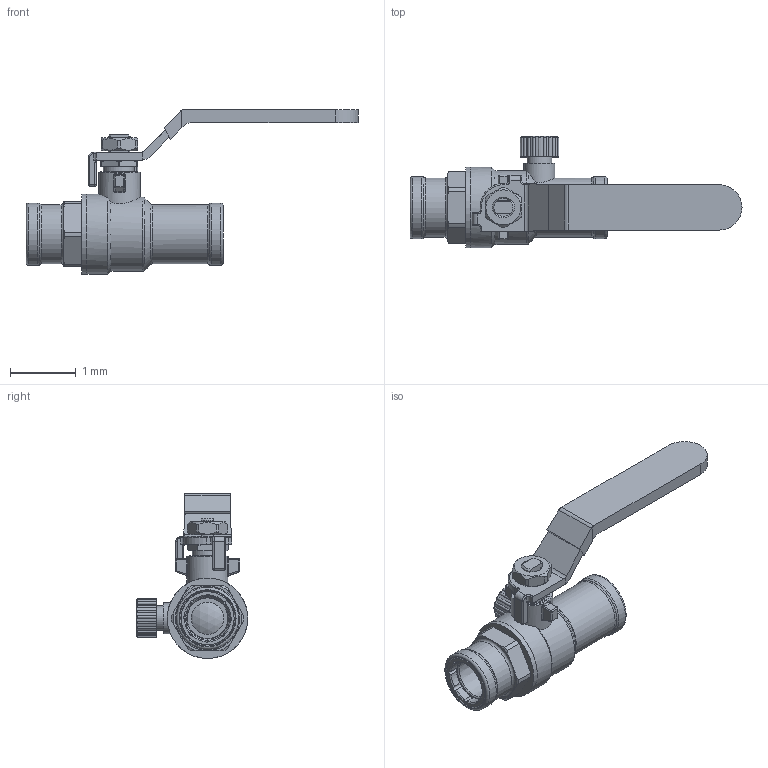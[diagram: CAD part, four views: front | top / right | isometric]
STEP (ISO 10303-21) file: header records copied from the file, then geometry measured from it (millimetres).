
FILE_DESCRIPTION(('Open CASCADE Model'),'2;1');
FILE_NAME('Open CASCADE Shape Model','2022-08-11T10:07:12',('Author'),( 'Open CASCADE'),'Open CASCADE STEP processor 7.3','Open CASCADE 7.3' ,'Unknown');
FILE_SCHEMA(('AUTOMOTIVE_DESIGN { 1 0 10303 214 1 1 1 1 }'));
Length unit declared in the file: millimetre
Products named in the file (22): Open CASCADE STEP translator 7.3 1; Open CASCADE STEP translator 7.3 1.1; Open CASCADE STEP translator 7.3 1.2; Open CASCADE STEP translator 7.3 1.3; Open CASCADE STEP translator 7.3 1.4; Open CASCADE STEP translator 7.3 1.5; Open CASCADE STEP translator 7.3 1.5.1; Open CASCADE STEP translator 7.3 1.5.2; Open CASCADE STEP translator 7.3 1.5.3; Open CASCADE STEP translator 7.3 1.6; Open CASCADE STEP translator 7.3 1.7; Open CASCADE STEP translator 7.3 1.8; Open CASCADE STEP translator 7.3 1.9; Open CASCADE STEP translator 7.3 1.10; Open CASCADE STEP translator 7.3 1.11; Open CASCADE STEP translator 7.3 1.12; Open CASCADE STEP translator 7.3 1.13; Open CASCADE STEP translator 7.3 1.14; Open CASCADE STEP translator 7.3 1.15; Open CASCADE STEP translator 7.3 1.16; Open CASCADE STEP translator 7.3 1.17; Open CASCADE STEP translator 7.3 1.18
Assembly tree (21 placements, depth 3):
  Open CASCADE STEP translator 7.3 1
    Open CASCADE STEP translator 7.3 1.1
    Open CASCADE STEP translator 7.3 1.2
    Open CASCADE STEP translator 7.3 1.3
    Open CASCADE STEP translator 7.3 1.4
    Open CASCADE STEP translator 7.3 1.5
      Open CASCADE STEP translator 7.3 1.5.1
      Open CASCADE STEP translator 7.3 1.5.2
      Open CASCADE STEP translator 7.3 1.5.3
    Open CASCADE STEP translator 7.3 1.6
    Open CASCADE STEP translator 7.3 1.7
    Open CASCADE STEP translator 7.3 1.8
    Open CASCADE STEP translator 7.3 1.9
    Open CASCADE STEP translator 7.3 1.10
    Open CASCADE STEP translator 7.3 1.11
    Open CASCADE STEP translator 7.3 1.12
    Open CASCADE STEP translator 7.3 1.13
    Open CASCADE STEP translator 7.3 1.14
    Open CASCADE STEP translator 7.3 1.15
    Open CASCADE STEP translator 7.3 1.16
    Open CASCADE STEP translator 7.3 1.17
    Open CASCADE STEP translator 7.3 1.18
Bounding box: 5.04 x 1.69 x 2.51 mm (x, y, z)
Volume: 2.4 mm3; surface area: 52.9 mm2
Topology: 20 solids, 20 shells, 519 faces, 1345 edges, 893 vertices
Faces by surface type: cylinder 210, plane 144, cone 91, torus 43, sphere 21, bspline 10
Full cylindrical faces by diameter (mm): 0.079 x1, 0.126 x1, 0.256 x1, 0.276 x1, 0.284 x2, 0.319 x1, 0.335 x3, 0.339 x1, 0.375 x1, 0.414 x2, 0.451 x1, 0.473 x2, 0.492 x3, 0.512 x1, 0.552 x1, 0.591 x5, 0.63 x1, 0.654 x2, 0.678 x2, 0.756 x2, 0.772 x2, 0.78 x2, 0.788 x2, 0.808 x6, 0.847 x2, 0.898 x2, 0.946 x2, 1.005 x1, 1.024 x1, 1.083 x1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
Entity records: 45110 total; most frequent: CARTESIAN_POINT 19007, DIRECTION 4733, ORIENTED_EDGE 2690, PCURVE 2690, DEFINITIONAL_REPRESENTATION 2690, LINE 2097, VECTOR 2097, EDGE_CURVE 1345
